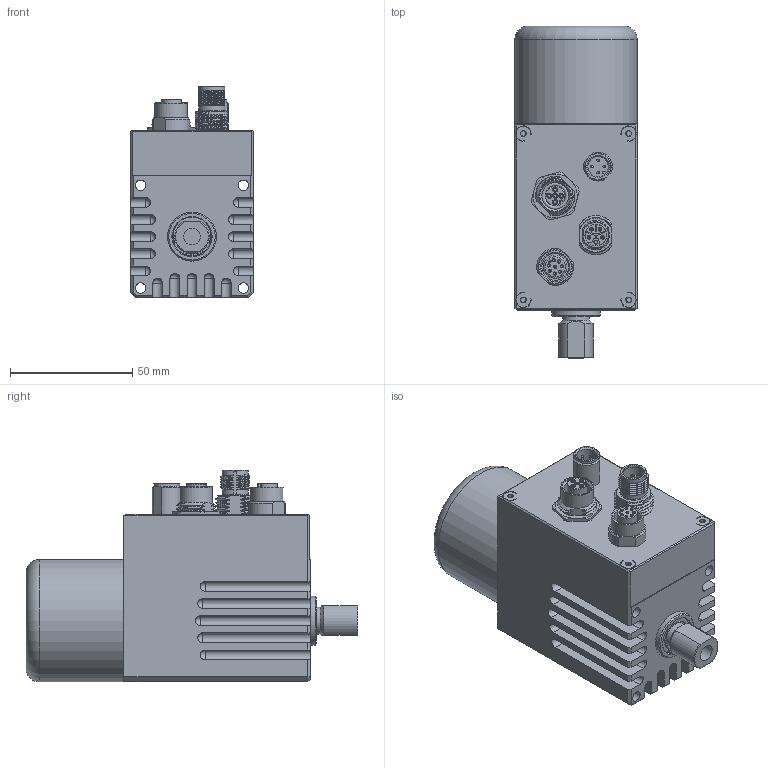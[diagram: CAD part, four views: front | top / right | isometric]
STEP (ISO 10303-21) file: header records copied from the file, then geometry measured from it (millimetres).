
FILE_DESCRIPTION(/* description */ (''),/* implementation_level */ '2;1');
FILE_NAME(/* name */ 'Envelope_LE-IDIO-50.XXX.080.SX_v37 v8.step',/* time_stamp */ '2024-05-15T18:33:22+02:00',/* author */ (''),/* organization */ (''),/* preprocessor_version */ 'ST-DEVELOPER v20',/* originating_system */ 'Autodesk Translation Framework v12.20.1.177',/* authorisation */ '');
FILE_SCHEMA (('AUTOMOTIVE_DESIGN { 1 0 10303 214 3 1 1 }'));
Products named in the file (1): Envelope_LE-IDIO-50.XXX.080.SX_v37
Bounding box: 50 x 135.64 x 86.5 mm (x, y, z)
Volume: 317360.2 mm3; surface area: 52638 mm2
Topology: 1 solids, 6 shells, 794 faces, 2153 edges, 1375 vertices
Faces by surface type: cylinder 304, plane 217, bspline 140, cone 88, torus 24, sphere 21
Full cylindrical faces by diameter (mm): 0.9 x8, 1 x4, 1.2 x5, 1.3 x2, 1.5 x4, 1.55 x1, 2 x5, 2.35 x60, 2.529 x44, 3 x20, 3.4 x4, 4.3 x4, 6.779 x1, 8.5 x1, 8.9 x1, 10.5 x1, 10.75 x1, 10.8 x1, 10.9 x1, 11 x3, 12.5 x1, 12.52 x1, 13.3 x2, 16 x2, 16.8 x1, 20 x1, 50 x1
Entity records: 55220 total; most frequent: CARTESIAN_POINT 36859, ORIENTED_EDGE 4240, DIRECTION 3217, EDGE_CURVE 2120, VERTEX_POINT 1375, AXIS2_PLACEMENT_3D 1228, EDGE_LOOP 861, FACE_OUTER_BOUND 794
